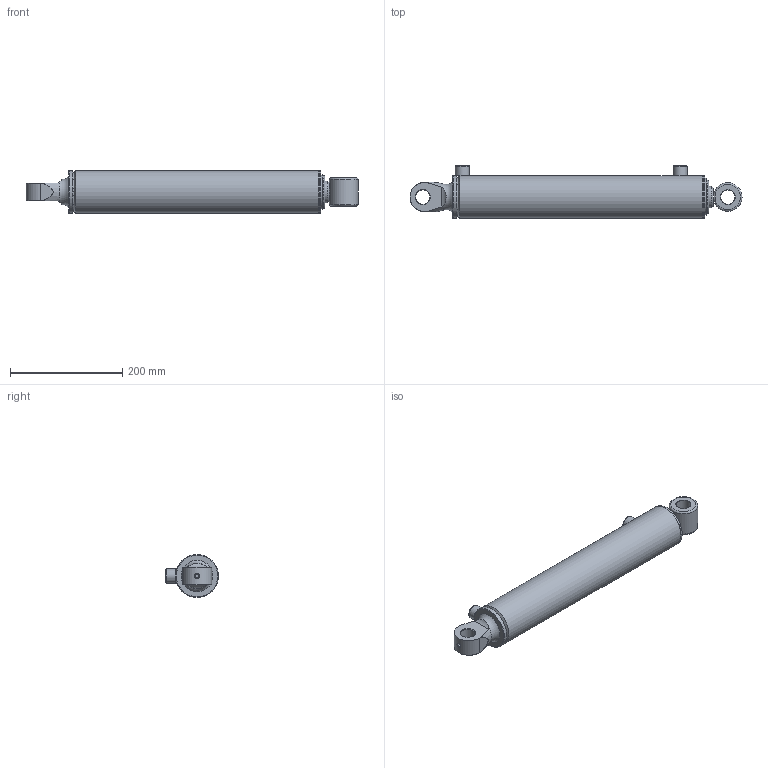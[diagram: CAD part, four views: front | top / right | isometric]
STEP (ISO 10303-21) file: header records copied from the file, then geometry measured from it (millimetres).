
FILE_DESCRIPTION(/* description */ ('Alibre Inc.'),/* implementation_level */ '2;1');
FILE_NAME(/* name */ 'export0',/* time_stamp */ '2016-08-16T09:56:20+12:00',/* author */ (''),/* organization */ (''),/* preprocessor_version */ 'ST-DEVELOPER v14',/* originating_system */ 'Alibre',/* authorisation */ '');
FILE_SCHEMA (('AUTOMOTIVE_DESIGN'));
Length unit declared in the file: centimetre
Bounding box: 591.13 x 94.2 x 76.2 mm (x, y, z)
Volume: 1483818.8 mm3; surface area: 347367.5 mm2
Topology: 12 solids, 12 shells, 150 faces, 308 edges, 192 vertices
Faces by surface type: cylinder 55, plane 51, cone 28, torus 13, sphere 2, bspline 1
Full cylindrical faces by diameter (mm): 2.5 x2, 7 x3, 8.3 x2, 8.8 x1, 15.25 x2, 23 x1, 23.622 x1, 25 x2, 25.4 x2, 25.45 x1, 38.1 x1, 38.18 x2, 38.35 x1, 44.45 x1, 47.62 x2, 47.63 x1, 48 x2, 50.8 x1, 56.5 x1, 57.66 x1, 58.9 x2, 59.87 x2, 60.2 x1, 62.13 x2, 63.39 x2, 63.4 x1, 63.5 x2, 66.7 x1, 76.2 x3
Entity records: 4139 total; most frequent: CARTESIAN_POINT 1185, DIRECTION 569, ORIENTED_EDGE 394, AXIS2_PLACEMENT_3D 300, FACE_BOUND 271, EDGE_LOOP 269, EDGE_CURVE 197, VERTEX_POINT 174
